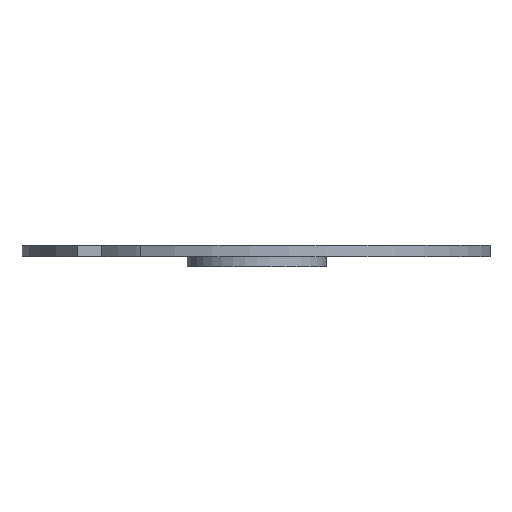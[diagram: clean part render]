
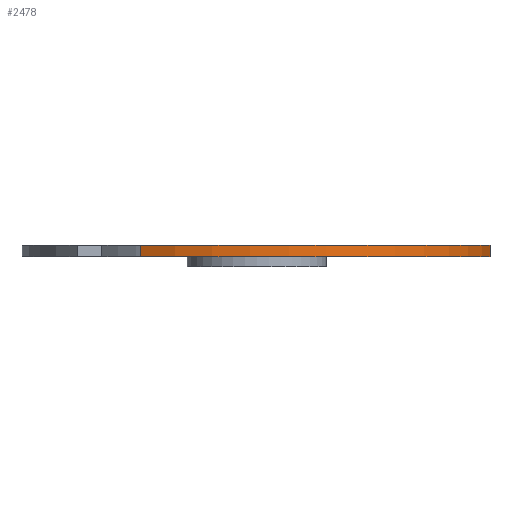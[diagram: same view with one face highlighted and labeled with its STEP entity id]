
A CAD part, front view. The second image highlights one B-rep face of the part: STEP entity #2478.
In plain terms, the highlighted cylindrical face has radius 64.9 mm (diameter 129.8 mm), a partial arc.
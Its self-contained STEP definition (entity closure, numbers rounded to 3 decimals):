
#45 = PLANE('',#46);
#46 = AXIS2_PLACEMENT_3D('',#47,#48,#49);
#47 = CARTESIAN_POINT('',(0.,0.,15.2));
#48 = DIRECTION('',(0.,0.,1.));
#49 = DIRECTION('',(1.,0.,-0.));
#100 = PLANE('',#101);
#101 = AXIS2_PLACEMENT_3D('',#102,#103,#104);
#102 = CARTESIAN_POINT('',(0.,0.,12.));
#103 = DIRECTION('',(0.,0.,1.));
#104 = DIRECTION('',(1.,0.,-0.));
#483 = VERTEX_POINT('',#484);
#484 = CARTESIAN_POINT('',(-32.205,-56.346,15.2));
#498 = PLANE('',#499);
#499 = AXIS2_PLACEMENT_3D('',#500,#501,#502);
#500 = CARTESIAN_POINT('',(-33.197,-58.082,11.));
#501 = DIRECTION('',(-0.868,0.496,0.));
#502 = DIRECTION('',(0.496,0.868,0.));
#509 = EDGE_CURVE('',#483,#510,#512,.T.);
#510 = VERTEX_POINT('',#511);
#511 = CARTESIAN_POINT('',(64.399,-8.048,15.2));
#512 = SURFACE_CURVE('',#513,(#518,#525),.PCURVE_S1.);
#513 = CIRCLE('',#514,64.9);
#514 = AXIS2_PLACEMENT_3D('',#515,#516,#517);
#515 = CARTESIAN_POINT('',(0.,0.,15.2));
#516 = DIRECTION('',(0.,0.,1.));
#517 = DIRECTION('',(1.,0.,-0.));
#518 = PCURVE('',#45,#519);
#519 = DEFINITIONAL_REPRESENTATION('',(#520),#524);
#520 = CIRCLE('',#521,64.9);
#521 = AXIS2_PLACEMENT_2D('',#522,#523);
#522 = CARTESIAN_POINT('',(0.,0.));
#523 = DIRECTION('',(1.,0.));
#524 = ( GEOMETRIC_REPRESENTATION_CONTEXT(2) 
PARAMETRIC_REPRESENTATION_CONTEXT() REPRESENTATION_CONTEXT('2D SPACE',''
  ) );
#525 = PCURVE('',#526,#531);
#526 = CYLINDRICAL_SURFACE('',#527,64.9);
#527 = AXIS2_PLACEMENT_3D('',#528,#529,#530);
#528 = CARTESIAN_POINT('',(0.,0.,12.));
#529 = DIRECTION('',(0.,0.,1.));
#530 = DIRECTION('',(1.,0.,-0.));
#531 = DEFINITIONAL_REPRESENTATION('',(#532),#536);
#532 = LINE('',#533,#534);
#533 = CARTESIAN_POINT('',(0.,3.2));
#534 = VECTOR('',#535,1.);
#535 = DIRECTION('',(1.,0.));
#536 = ( GEOMETRIC_REPRESENTATION_CONTEXT(2) 
PARAMETRIC_REPRESENTATION_CONTEXT() REPRESENTATION_CONTEXT('2D SPACE',''
  ) );
#552 = PLANE('',#553);
#553 = AXIS2_PLACEMENT_3D('',#554,#555,#556);
#554 = CARTESIAN_POINT('',(55.568,-6.944,11.));
#555 = DIRECTION('',(0.124,0.992,-0.));
#556 = DIRECTION('',(0.992,-0.124,0.));
#1706 = VERTEX_POINT('',#1707);
#1707 = CARTESIAN_POINT('',(-32.205,-56.346,12.));
#1726 = EDGE_CURVE('',#1706,#1727,#1729,.T.);
#1727 = VERTEX_POINT('',#1728);
#1728 = CARTESIAN_POINT('',(64.399,-8.048,12.));
#1729 = SURFACE_CURVE('',#1730,(#1735,#1742),.PCURVE_S1.);
#1730 = CIRCLE('',#1731,64.9);
#1731 = AXIS2_PLACEMENT_3D('',#1732,#1733,#1734);
#1732 = CARTESIAN_POINT('',(0.,0.,12.));
#1733 = DIRECTION('',(0.,0.,1.));
#1734 = DIRECTION('',(1.,0.,-0.));
#1735 = PCURVE('',#100,#1736);
#1736 = DEFINITIONAL_REPRESENTATION('',(#1737),#1741);
#1737 = CIRCLE('',#1738,64.9);
#1738 = AXIS2_PLACEMENT_2D('',#1739,#1740);
#1739 = CARTESIAN_POINT('',(0.,0.));
#1740 = DIRECTION('',(1.,0.));
#1741 = ( GEOMETRIC_REPRESENTATION_CONTEXT(2) 
PARAMETRIC_REPRESENTATION_CONTEXT() REPRESENTATION_CONTEXT('2D SPACE',''
  ) );
#1742 = PCURVE('',#526,#1743);
#1743 = DEFINITIONAL_REPRESENTATION('',(#1744),#1748);
#1744 = LINE('',#1745,#1746);
#1745 = CARTESIAN_POINT('',(0.,0.));
#1746 = VECTOR('',#1747,1.);
#1747 = DIRECTION('',(1.,0.));
#1748 = ( GEOMETRIC_REPRESENTATION_CONTEXT(2) 
PARAMETRIC_REPRESENTATION_CONTEXT() REPRESENTATION_CONTEXT('2D SPACE',''
  ) );
#2460 = EDGE_CURVE('',#1727,#510,#2461,.T.);
#2461 = SURFACE_CURVE('',#2462,(#2466,#2472),.PCURVE_S1.);
#2462 = LINE('',#2463,#2464);
#2463 = CARTESIAN_POINT('',(64.399,-8.048,12.));
#2464 = VECTOR('',#2465,1.);
#2465 = DIRECTION('',(0.,0.,1.));
#2466 = PCURVE('',#552,#2467);
#2467 = DEFINITIONAL_REPRESENTATION('',(#2468),#2471);
#2468 = B_SPLINE_CURVE_WITH_KNOTS('',1,(#2469,#2470),.UNSPECIFIED.,.F.,
  .F.,(2,2),(0.,3.2),.PIECEWISE_BEZIER_KNOTS.);
#2469 = CARTESIAN_POINT('',(8.9,-1.));
#2470 = CARTESIAN_POINT('',(8.9,-4.2));
#2471 = ( GEOMETRIC_REPRESENTATION_CONTEXT(2) 
PARAMETRIC_REPRESENTATION_CONTEXT() REPRESENTATION_CONTEXT('2D SPACE',''
  ) );
#2472 = PCURVE('',#526,#2473);
#2473 = DEFINITIONAL_REPRESENTATION('',(#2474),#2477);
#2474 = B_SPLINE_CURVE_WITH_KNOTS('',1,(#2475,#2476),.UNSPECIFIED.,.F.,
  .F.,(2,2),(0.,3.2),.PIECEWISE_BEZIER_KNOTS.);
#2475 = CARTESIAN_POINT('',(6.159,0.));
#2476 = CARTESIAN_POINT('',(6.159,3.2));
#2477 = ( GEOMETRIC_REPRESENTATION_CONTEXT(2) 
PARAMETRIC_REPRESENTATION_CONTEXT() REPRESENTATION_CONTEXT('2D SPACE',''
  ) );
#2478 = ADVANCED_FACE('',(#2479),#526,.T.);
#2479 = FACE_BOUND('',#2480,.T.);
#2480 = EDGE_LOOP('',(#2481,#2482,#2501,#2502));
#2481 = ORIENTED_EDGE('',*,*,#509,.F.);
#2482 = ORIENTED_EDGE('',*,*,#2483,.F.);
#2483 = EDGE_CURVE('',#1706,#483,#2484,.T.);
#2484 = SURFACE_CURVE('',#2485,(#2489,#2495),.PCURVE_S1.);
#2485 = LINE('',#2486,#2487);
#2486 = CARTESIAN_POINT('',(-32.205,-56.346,12.));
#2487 = VECTOR('',#2488,1.);
#2488 = DIRECTION('',(0.,0.,1.));
#2489 = PCURVE('',#526,#2490);
#2490 = DEFINITIONAL_REPRESENTATION('',(#2491),#2494);
#2491 = B_SPLINE_CURVE_WITH_KNOTS('',1,(#2492,#2493),.UNSPECIFIED.,.F.,
  .F.,(2,2),(0.,3.2),.PIECEWISE_BEZIER_KNOTS.);
#2492 = CARTESIAN_POINT('',(4.193,0.));
#2493 = CARTESIAN_POINT('',(4.193,3.2));
#2494 = ( GEOMETRIC_REPRESENTATION_CONTEXT(2) 
PARAMETRIC_REPRESENTATION_CONTEXT() REPRESENTATION_CONTEXT('2D SPACE',''
  ) );
#2495 = PCURVE('',#498,#2496);
#2496 = DEFINITIONAL_REPRESENTATION('',(#2497),#2500);
#2497 = B_SPLINE_CURVE_WITH_KNOTS('',1,(#2498,#2499),.UNSPECIFIED.,.F.,
  .F.,(2,2),(0.,3.2),.PIECEWISE_BEZIER_KNOTS.);
#2498 = CARTESIAN_POINT('',(2.,-1.));
#2499 = CARTESIAN_POINT('',(2.,-4.2));
#2500 = ( GEOMETRIC_REPRESENTATION_CONTEXT(2) 
PARAMETRIC_REPRESENTATION_CONTEXT() REPRESENTATION_CONTEXT('2D SPACE',''
  ) );
#2501 = ORIENTED_EDGE('',*,*,#1726,.T.);
#2502 = ORIENTED_EDGE('',*,*,#2460,.T.);
